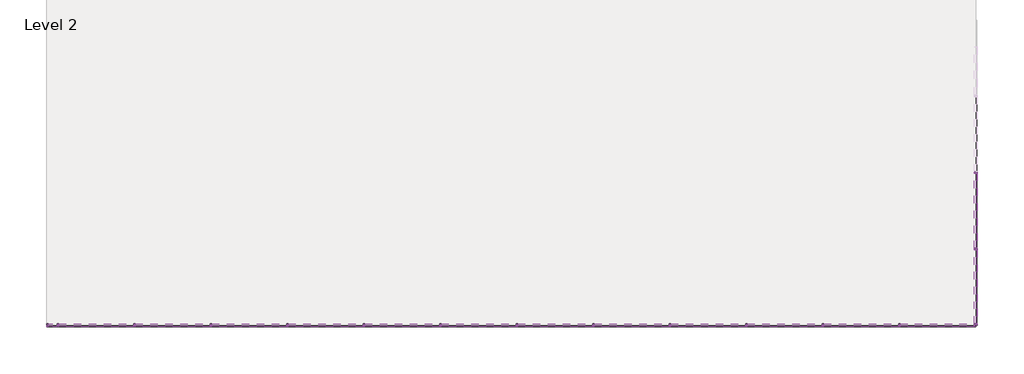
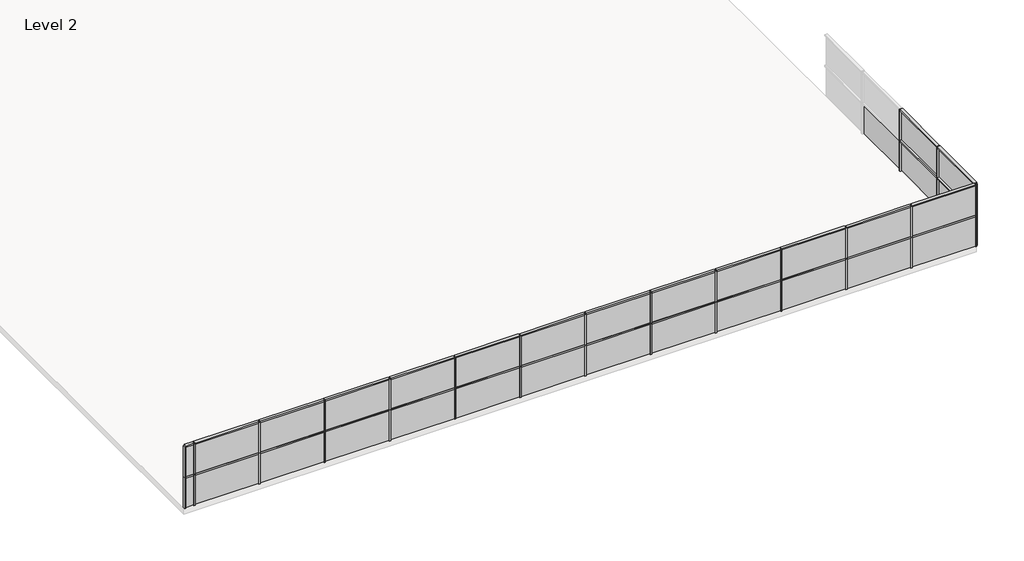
# One storey, part 1 of 2: 64 members, 31 plates.
"""IFC4 building model written with IfcOpenShell, lengths in millimetres."""

import ifcopenshell
import ifcopenshell.guid

model = None  # the IFC model being written
_history = None  # IfcOwnerHistory: only IFC2X3 demands one
_inside = {}  # id of a spatial element -> (the spatial element, [elements in it])
_under = {}  # id of a project, library or spatial element -> (it, [spatial elements below it])
_declared = {}  # id of a project -> (the project, [libraries it declares])
_typed = {}  # id of a type object -> (the type object, [elements of that type])
_made_of = {}  # id of a material, layer set ... -> (it, [elements and type objects made of it])


def new_model(schema):
    """Start an empty IFC model of exactly this schema.

    Asked for "IFC4X3", IfcOpenShell would pick the latest addendum, in which some entities
    have other attributes; the version numbers below select the first issue.
    IFC2X3 requires an IfcOwnerHistory on every rooted entity: one is made here for all.
    """
    global model, _history
    if schema == "IFC4X3":
        model = ifcopenshell.file(schema_version=(4, 3, 0, 0))
    else:
        model = ifcopenshell.file(schema=schema)
    _inside.clear()
    _under.clear()
    _declared.clear()
    _typed.clear()
    _made_of.clear()
    _history = None
    if model.schema == "IFC2X3":
        org = make("IfcOrganization", Name="unknown")
        user = make(
            "IfcPersonAndOrganization",
            ThePerson=make("IfcPerson", FamilyName="unknown"),
            TheOrganization=org,
        )
        app = make(
            "IfcApplication",
            ApplicationDeveloper=org,
            Version="unknown",
            ApplicationFullName="unknown",
            ApplicationIdentifier="unknown",
        )
        _history = make(
            "IfcOwnerHistory",
            OwningUser=user,
            OwningApplication=app,
            ChangeAction="ADDED",
            CreationDate=0,
        )
    return model


def make(cls, **values):
    """One entity of the class cls with the attributes given. An attribute that is None is left unset."""
    return model.create_entity(
        cls, **{name: value for name, value in values.items() if value is not None}
    )


def rooted(cls, **values):
    """An entity with a GlobalId (a new one), such as an element, a storey or a relation."""
    return make(cls, GlobalId=ifcopenshell.guid.new(), OwnerHistory=_history, **values)


def si_unit(unit_type, name, prefix=None):
    """IfcSIUnit, for example si_unit("LENGTHUNIT", "METRE", prefix="MILLI")."""
    return make("IfcSIUnit", UnitType=unit_type, Prefix=prefix, Name=name)


def assignment(units):
    """IfcUnitAssignment: the units of a project."""
    return None if units is None else make("IfcUnitAssignment", Units=units)


def point(xyz):
    """IfcCartesianPoint."""
    return None if xyz is None else make("IfcCartesianPoint", Coordinates=xyz)


def direction(xyz):
    """IfcDirection."""
    return None if xyz is None else make("IfcDirection", DirectionRatios=xyz)


def frame(location, z_axis=None, x_axis=None):
    """IfcAxis2Placement3D, a coordinate frame: its origin and axes. An axis left out is left unset."""
    return make(
        "IfcAxis2Placement3D",
        Location=point(location),
        Axis=direction(z_axis),
        RefDirection=direction(x_axis),
    )


def origin():
    """The frame at (0, 0, 0) with its axes left unset."""
    return frame((0.0, 0.0, 0.0))


def origin_with_axes():
    """The frame at (0, 0, 0) with the z axis (0, 0, 1) and the x axis (1, 0, 0) written out."""
    return frame((0.0, 0.0, 0.0), z_axis=(0.0, 0.0, 1.0), x_axis=(1.0, 0.0, 0.0))


def place(relative_to, where):
    """IfcLocalPlacement: puts the frame where relative to a parent placement (None: the world)."""
    return make(
        "IfcLocalPlacement", PlacementRelTo=relative_to, RelativePlacement=where
    )


def context(
    kind, dimensions, precision=None, world=None, true_north=None, identifier=None
):
    """IfcGeometricRepresentationContext, for example the 3D "Model" context."""
    return make(
        "IfcGeometricRepresentationContext",
        ContextIdentifier=identifier,
        ContextType=kind,
        CoordinateSpaceDimension=dimensions,
        Precision=precision,
        WorldCoordinateSystem=world,
        TrueNorth=true_north,
    )


def project(units=None, contexts=None):
    """IfcProject with its units and contexts."""
    return rooted(
        "IfcProject",
        Name="project",
        RepresentationContexts=contexts,
        UnitsInContext=assignment(units),
    )


def spatial(cls, under=None, at=None, **own):
    """A site, building, storey or space (cls), placed at a placement, below another one or the project."""
    s = rooted(cls, ObjectPlacement=at, **own)
    if under is not None:
        _under.setdefault(under.id(), (under, []))[1].append(s)
    return s


def polyline(points):
    """IfcPolyline through the points."""
    return make("IfcPolyline", Points=[point(p) for p in points])


def outline(outer, holes=None, kind="AREA"):
    """IfcArbitraryClosedProfileDef: a profile drawn as a closed curve; with holes, ...WithVoids."""
    if holes is None:
        return make("IfcArbitraryClosedProfileDef", ProfileType=kind, OuterCurve=outer)
    return make(
        "IfcArbitraryProfileDefWithVoids",
        ProfileType=kind,
        OuterCurve=outer,
        InnerCurves=holes,
    )


def extrude(swept, where, along, depth):
    """IfcExtrudedAreaSolid: the profile swept, set in the frame where, extruded along a direction by depth."""
    return make(
        "IfcExtrudedAreaSolid",
        SweptArea=swept,
        Position=where,
        ExtrudedDirection=direction(along),
        Depth=depth,
    )


def shape(context_of_items, identifier, shape_type, items):
    """IfcShapeRepresentation: the items that make up one representation, for example the "Body"."""
    return make(
        "IfcShapeRepresentation",
        ContextOfItems=context_of_items,
        RepresentationIdentifier=identifier,
        RepresentationType=shape_type,
        Items=items,
    )


def source(mapping_origin, context_of_items, identifier, shape_type, items):
    """IfcRepresentationMap: a shape defined once, which mapped items show again and again."""
    return make(
        "IfcRepresentationMap",
        MappingOrigin=mapping_origin,
        MappedRepresentation=shape(context_of_items, identifier, shape_type, items),
    )


def transform(
    local_origin,
    x_axis=None,
    y_axis=None,
    z_axis=None,
    scale=None,
    scale2=None,
    scale3=None,
    uniform=True,
):
    """IfcCartesianTransformationOperator3D, or its non-uniform kind. x_axis, y_axis, z_axis: its Axis1, 2, 3."""
    if uniform:
        return make(
            "IfcCartesianTransformationOperator3D",
            Axis1=direction(x_axis),
            Axis2=direction(y_axis),
            LocalOrigin=point(local_origin),
            Scale=scale,
            Axis3=direction(z_axis),
        )
    return make(
        "IfcCartesianTransformationOperator3DnonUniform",
        Axis1=direction(x_axis),
        Axis2=direction(y_axis),
        LocalOrigin=point(local_origin),
        Scale=scale,
        Axis3=direction(z_axis),
        Scale2=scale2,
        Scale3=scale3,
    )


def mapped(mapping_source, mapping_target):
    """IfcMappedItem: shows the shape of a source again, moved by a transform."""
    return make(
        "IfcMappedItem", MappingSource=mapping_source, MappingTarget=mapping_target
    )


def made_of(thing, what):
    """Note that an element or type object is made of a material, layer set ...; save() writes the relation."""
    if what is not None:
        _made_of.setdefault(what.id(), (what, []))[1].append(thing)
    return thing


def element(
    cls,
    number,
    at=None,
    inside=None,
    cuts=None,
    type_object=None,
    material=None,
    context=None,
    identifier="Body",
    shape_type=None,
    held_by="IfcProductDefinitionShape",
    body=None,
    shapes=None,
    **own,
):
    """One element of the class cls, such as IfcWall. Its Tag is "e" and its number.

    at: its placement. inside: the storey or other place that contains it. cuts: it is an
    opening in that element (IfcRelVoidsElement). A single representation is given by context,
    identifier, shape_type and body (its items); several are given by shapes. held_by: the class
    of the entity that holds the representations. save() writes the other relations.
    """
    e = rooted(cls, Tag="e%d" % number, ObjectPlacement=at, **own)
    if body is not None:
        shapes = [shape(context, identifier, shape_type, body)]
    if shapes is not None:
        e.Representation = make(held_by, Representations=shapes)
    if inside is not None:
        _inside.setdefault(inside.id(), (inside, []))[1].append(e)
    if cuts is not None:
        rooted(
            "IfcRelVoidsElement", RelatingBuildingElement=cuts, RelatedOpeningElement=e
        )
    if type_object is not None:
        _typed.setdefault(type_object.id(), (type_object, []))[1].append(e)
    return made_of(e, material)


def aggregate(whole, parts):
    """IfcRelAggregates: a whole, such as a stair, and the parts it consists of."""
    return rooted("IfcRelAggregates", RelatingObject=whole, RelatedObjects=parts)


def save(model, path):
    """Write the relations noted so far, then the file.

    IfcRelAggregates (storeys below a building ...), IfcRelContainedInSpatialStructure (elements
    in a storey), IfcRelDefinesByType, IfcRelAssociatesMaterial and IfcRelDeclares: one each for
    every whole, place, type object, material and project.
    """
    for whole, parts in _under.values():
        aggregate(whole, parts)
    for where, things in _inside.values():
        rooted(
            "IfcRelContainedInSpatialStructure",
            RelatedElements=things,
            RelatingStructure=where,
        )
    for kind, things in _typed.values():
        rooted("IfcRelDefinesByType", RelatedObjects=things, RelatingType=kind)
    for what, things in _made_of.values():
        rooted("IfcRelAssociatesMaterial", RelatedObjects=things, RelatingMaterial=what)
    for by, libraries in _declared.values():
        rooted("IfcRelDeclares", RelatingContext=by, RelatedDefinitions=libraries)
    model.write(path)


def member_8cef0660(model_context):
    return source(origin(), model_context, "Body", "SweptSolid", [
        extrude(outline(polyline([(31.75, 63.5), (31.75, -63.5), (-31.75, -63.5), (-31.75, 63.5), (31.75, 63.5)])), frame((0.0, 0.0, -2984.5), z_axis=(0.0, 0.0, 1.0), x_axis=(1.0, 0.0, 0.0)), (0.0, 0.0, 1.0), 2984.5),
    ])


def member_c65d5026(model_context):
    return source(origin(), model_context, "Body", "SweptSolid", [
        extrude(outline(polyline([(31.75, 63.5), (31.75, -63.5), (-31.75, -63.5), (-31.75, 63.5), (31.75, 63.5)])), frame((0.0, 0.0, -2952.75), z_axis=(0.0, 0.0, 1.0), x_axis=(1.0, 0.0, 0.0)), (0.0, 0.0, 1.0), 2952.75),
    ])


def member_82905deb(model_context):
    return source(origin(), model_context, "Body", "SweptSolid", [
        extrude(outline(polyline([(31.75, 63.5), (31.75, -63.5), (-31.75, -63.5), (-31.75, 63.5), (31.75, 63.5)])), frame((0.0, 0.0, -1524.0), z_axis=(0.0, 0.0, 1.0), x_axis=(1.0, 0.0, 0.0)), (0.0, 0.0, 1.0), 1524.0),
    ])


def member_4491d118(model_context):
    return source(origin(), model_context, "Body", "SweptSolid", [
        extrude(outline(polyline([(0.0, 63.5), (0.0, -63.5), (-63.5, -63.5), (-63.5, 63.5), (0.0, 63.5)])), frame((0.0, 0.0, -1524.0), z_axis=(0.0, 0.0, 1.0), x_axis=(1.0, 0.0, 0.0)), (0.0, 0.0, 1.0), 1524.0),
    ])


def member_af2f84b9(model_context):
    return source(origin(), model_context, "Body", "SweptSolid", [
        extrude(outline(polyline([(31.75, 63.5), (31.75, -63.5), (-31.75, -63.5), (-31.75, 63.5), (31.75, 63.5)])), frame((0.0, 0.0, -361.95), z_axis=(0.0, 0.0, 1.0), x_axis=(1.0, 0.0, 0.0)), (0.0, 0.0, 1.0), 361.95),
    ])


def system_panel_glazed_88acb840(model_context):
    return source(origin(), model_context, "Body", "SweptSolid", [
        extrude(outline(polyline([(1476.375, 19.05), (-1476.375, 19.05), (-1476.375, 44.45), (1476.375, 44.45), (1476.375, 19.05)])), origin_with_axes(), (0.0, 0.0, 1.0), 1460.5),
    ])


def system_panel_glazed_2a6c68b7(model_context):
    return source(origin(), model_context, "Body", "SweptSolid", [
        extrude(outline(polyline([(1492.25, 19.05), (-1492.25, 19.05), (-1492.25, 44.45), (1492.25, 44.45), (1492.25, 19.05)])), origin_with_axes(), (0.0, 0.0, 1.0), 1460.5),
    ])


def system_panel_glazed_224948cd(model_context):
    return source(origin(), model_context, "Body", "SweptSolid", [
        extrude(outline(polyline([(180.975, 19.05), (-180.975, 19.05), (-180.975, 44.45), (180.975, 44.45), (180.975, 19.05)])), origin_with_axes(), (0.0, 0.0, 1.0), 1460.5),
    ])


model = new_model("IFC4")

# Units and contexts
model_context = context("Model", 3, world=origin())
ifc_project = project(units=[si_unit("LENGTHUNIT", "METRE", prefix="MILLI")], contexts=[model_context])

# Site, building, storey
site = spatial("IfcSite", under=ifc_project)
building = spatial("IfcBuilding", under=site)
storey = spatial("IfcBuildingStorey", under=building, Name="Level 2", Elevation=3048.0)

# Members
placement = place(None, origin())
member_shape = member_8cef0660(model_context)
element("IfcMember", 1, ObjectType="Rectangular Mullion : 2.5\" x 5\" rectangular", at=placement, inside=storey, context=model_context, shape_type="MappedRepresentation", body=[
    mapped(member_shape, transform((-7003.8511466, -36697.3111797, 6096.0), x_axis=(0.0, 0.0, 1.0), y_axis=(1.0, 0.0, 0.0), z_axis=(0.0, 1.0, 0.0))),
])
element("IfcMember", 2, ObjectType="Rectangular Mullion : 2.5\" x 5\" rectangular", at=placement, inside=storey, context=model_context, shape_type="MappedRepresentation", body=[
    mapped(member_shape, transform((-7003.8511466, -36697.3111797, 4572.0), x_axis=(0.0, 0.0, 1.0), y_axis=(1.0, 0.0, 0.0), z_axis=(0.0, 1.0, 0.0))),
])
element("IfcMember", 3, ObjectType="Rectangular Mullion : 2.5\" x 5\" rectangular", at=placement, inside=storey, context=model_context, shape_type="MappedRepresentation", body=[
    mapped(member_shape, transform((-13131.6011466, -42761.5611797, 4572.0), x_axis=(0.0, 0.0, 1.0), y_axis=(0.0, -1.0, 0.0), z_axis=(1.0, 0.0, 0.0))),
])
element("IfcMember", 4, ObjectType="Rectangular Mullion : 2.5\" x 5\" rectangular", at=placement, inside=storey, context=model_context, shape_type="MappedRepresentation", body=[
    mapped(member_shape, transform((-10083.6011466, -42761.5611797, 4572.0), x_axis=(0.0, 0.0, 1.0), y_axis=(0.0, -1.0, 0.0), z_axis=(1.0, 0.0, 0.0))),
])
element("IfcMember", 5, ObjectType="Rectangular Mullion : 2.5\" x 5\" rectangular", at=placement, inside=storey, context=model_context, shape_type="MappedRepresentation", body=[
    mapped(member_shape, transform((-25323.6011466, -42761.5611797, 4572.0), x_axis=(0.0, 0.0, 1.0), y_axis=(0.0, -1.0, 0.0), z_axis=(1.0, 0.0, 0.0))),
])
element("IfcMember", 6, ObjectType="Rectangular Mullion : 2.5\" x 5\" rectangular", at=placement, inside=storey, context=model_context, shape_type="MappedRepresentation", body=[
    mapped(member_shape, transform((-22275.6011466, -42761.5611797, 4572.0), x_axis=(0.0, 0.0, 1.0), y_axis=(0.0, -1.0, 0.0), z_axis=(1.0, 0.0, 0.0))),
])
element("IfcMember", 7, ObjectType="Rectangular Mullion : 2.5\" x 5\" rectangular", at=placement, inside=storey, context=model_context, shape_type="MappedRepresentation", body=[
    mapped(member_shape, transform((-19227.6011466, -42761.5611797, 4572.0), x_axis=(0.0, 0.0, 1.0), y_axis=(0.0, -1.0, 0.0), z_axis=(1.0, 0.0, 0.0))),
])
element("IfcMember", 8, ObjectType="Rectangular Mullion : 2.5\" x 5\" rectangular", at=placement, inside=storey, context=model_context, shape_type="MappedRepresentation", body=[
    mapped(member_shape, transform((-16179.6011466, -42761.5611797, 4572.0), x_axis=(0.0, 0.0, 1.0), y_axis=(0.0, -1.0, 0.0), z_axis=(1.0, 0.0, 0.0))),
])
element("IfcMember", 9, ObjectType="Rectangular Mullion : 2.5\" x 5\" rectangular", at=placement, inside=storey, context=model_context, shape_type="MappedRepresentation", body=[
    mapped(member_shape, transform((-40563.6011466, -42761.5611797, 6096.0), x_axis=(0.0, 0.0, 1.0), y_axis=(0.0, -1.0, 0.0), z_axis=(1.0, 0.0, 0.0))),
])
element("IfcMember", 10, ObjectType="Rectangular Mullion : 2.5\" x 5\" rectangular", at=placement, inside=storey, context=model_context, shape_type="MappedRepresentation", body=[
    mapped(member_shape, transform((-37515.6011466, -42761.5611797, 6096.0), x_axis=(0.0, 0.0, 1.0), y_axis=(0.0, -1.0, 0.0), z_axis=(1.0, 0.0, 0.0))),
])
element("IfcMember", 11, ObjectType="Rectangular Mullion : 2.5\" x 5\" rectangular", at=placement, inside=storey, context=model_context, shape_type="MappedRepresentation", body=[
    mapped(member_shape, transform((-34467.6011466, -42761.5611797, 6096.0), x_axis=(0.0, 0.0, 1.0), y_axis=(0.0, -1.0, 0.0), z_axis=(1.0, 0.0, 0.0))),
])
element("IfcMember", 12, ObjectType="Rectangular Mullion : 2.5\" x 5\" rectangular", at=placement, inside=storey, context=model_context, shape_type="MappedRepresentation", body=[
    mapped(member_shape, transform((-31419.6011466, -42761.5611797, 6096.0), x_axis=(0.0, 0.0, 1.0), y_axis=(0.0, -1.0, 0.0), z_axis=(1.0, 0.0, 0.0))),
])
element("IfcMember", 13, ObjectType="Rectangular Mullion : 2.5\" x 5\" rectangular", at=placement, inside=storey, context=model_context, shape_type="MappedRepresentation", body=[
    mapped(member_shape, transform((-28371.6011466, -42761.5611797, 6096.0), x_axis=(0.0, 0.0, 1.0), y_axis=(0.0, -1.0, 0.0), z_axis=(1.0, 0.0, 0.0))),
])
element("IfcMember", 14, ObjectType="Rectangular Mullion : 2.5\" x 5\" rectangular", at=placement, inside=storey, context=model_context, shape_type="MappedRepresentation", body=[
    mapped(member_shape, transform((-25323.6011466, -42761.5611797, 6096.0), x_axis=(0.0, 0.0, 1.0), y_axis=(0.0, -1.0, 0.0), z_axis=(1.0, 0.0, 0.0))),
])
element("IfcMember", 15, ObjectType="Rectangular Mullion : 2.5\" x 5\" rectangular", at=placement, inside=storey, context=model_context, shape_type="MappedRepresentation", body=[
    mapped(member_shape, transform((-22275.6011466, -42761.5611797, 6096.0), x_axis=(0.0, 0.0, 1.0), y_axis=(0.0, -1.0, 0.0), z_axis=(1.0, 0.0, 0.0))),
])
element("IfcMember", 16, ObjectType="Rectangular Mullion : 2.5\" x 5\" rectangular", at=placement, inside=storey, context=model_context, shape_type="MappedRepresentation", body=[
    mapped(member_shape, transform((-19227.6011466, -42761.5611797, 6096.0), x_axis=(0.0, 0.0, 1.0), y_axis=(0.0, -1.0, 0.0), z_axis=(1.0, 0.0, 0.0))),
])
element("IfcMember", 17, ObjectType="Rectangular Mullion : 2.5\" x 5\" rectangular", at=placement, inside=storey, context=model_context, shape_type="MappedRepresentation", body=[
    mapped(member_shape, transform((-16179.6011466, -42761.5611797, 6096.0), x_axis=(0.0, 0.0, 1.0), y_axis=(0.0, -1.0, 0.0), z_axis=(1.0, 0.0, 0.0))),
])
element("IfcMember", 18, ObjectType="Rectangular Mullion : 2.5\" x 5\" rectangular", at=placement, inside=storey, context=model_context, shape_type="MappedRepresentation", body=[
    mapped(member_shape, transform((-13131.6011466, -42761.5611797, 6096.0), x_axis=(0.0, 0.0, 1.0), y_axis=(0.0, -1.0, 0.0), z_axis=(1.0, 0.0, 0.0))),
])
element("IfcMember", 19, ObjectType="Rectangular Mullion : 2.5\" x 5\" rectangular", at=placement, inside=storey, context=model_context, shape_type="MappedRepresentation", body=[
    mapped(member_shape, transform((-10083.6011466, -42761.5611797, 6096.0), x_axis=(0.0, 0.0, 1.0), y_axis=(0.0, -1.0, 0.0), z_axis=(1.0, 0.0, 0.0))),
])
element("IfcMember", 20, ObjectType="Rectangular Mullion : 2.5\" x 5\" rectangular", at=placement, inside=storey, context=model_context, shape_type="MappedRepresentation", body=[
    mapped(member_shape, transform((-40563.6011466, -42761.5611797, 4572.0), x_axis=(0.0, 0.0, 1.0), y_axis=(0.0, -1.0, 0.0), z_axis=(1.0, 0.0, 0.0))),
])
element("IfcMember", 21, ObjectType="Rectangular Mullion : 2.5\" x 5\" rectangular", at=placement, inside=storey, context=model_context, shape_type="MappedRepresentation", body=[
    mapped(member_shape, transform((-37515.6011466, -42761.5611797, 4572.0), x_axis=(0.0, 0.0, 1.0), y_axis=(0.0, -1.0, 0.0), z_axis=(1.0, 0.0, 0.0))),
])
element("IfcMember", 22, ObjectType="Rectangular Mullion : 2.5\" x 5\" rectangular", at=placement, inside=storey, context=model_context, shape_type="MappedRepresentation", body=[
    mapped(member_shape, transform((-34467.6011466, -42761.5611797, 4572.0), x_axis=(0.0, 0.0, 1.0), y_axis=(0.0, -1.0, 0.0), z_axis=(1.0, 0.0, 0.0))),
])
element("IfcMember", 23, ObjectType="Rectangular Mullion : 2.5\" x 5\" rectangular", at=placement, inside=storey, context=model_context, shape_type="MappedRepresentation", body=[
    mapped(member_shape, transform((-31419.6011466, -42761.5611797, 4572.0), x_axis=(0.0, 0.0, 1.0), y_axis=(0.0, -1.0, 0.0), z_axis=(1.0, 0.0, 0.0))),
])
element("IfcMember", 24, ObjectType="Rectangular Mullion : 2.5\" x 5\" rectangular", at=placement, inside=storey, context=model_context, shape_type="MappedRepresentation", body=[
    mapped(member_shape, transform((-28371.6011466, -42761.5611797, 4572.0), x_axis=(0.0, 0.0, 1.0), y_axis=(0.0, -1.0, 0.0), z_axis=(1.0, 0.0, 0.0))),
])
member_2_shape = member_c65d5026(model_context)
element("IfcMember", 25, ObjectType="Rectangular Mullion : 2.5\" x 5\" rectangular", at=placement, inside=storey, context=model_context, shape_type="MappedRepresentation", body=[
    mapped(member_2_shape, transform((-7003.8511466, -39745.3111797, 6096.0), x_axis=(0.0, 0.0, 1.0), y_axis=(1.0, 0.0, 0.0), z_axis=(0.0, 1.0, 0.0))),
])
element("IfcMember", 26, ObjectType="Rectangular Mullion : 2.5\" x 5\" rectangular", at=placement, inside=storey, context=model_context, shape_type="MappedRepresentation", body=[
    mapped(member_2_shape, transform((-7003.8511466, -39745.3111797, 4572.0), x_axis=(0.0, 0.0, 1.0), y_axis=(1.0, 0.0, 0.0), z_axis=(0.0, 1.0, 0.0))),
])
element("IfcMember", 27, ObjectType="Rectangular Mullion : 2.5\" x 5\" rectangular", at=placement, inside=storey, context=model_context, shape_type="MappedRepresentation", body=[
    mapped(member_2_shape, transform((-7067.3511466, -42761.5611797, 4572.0), x_axis=(0.0, 0.0, 1.0), y_axis=(0.0, -1.0, 0.0), z_axis=(1.0, 0.0, 0.0))),
])
element("IfcMember", 28, ObjectType="Rectangular Mullion : 2.5\" x 5\" rectangular", at=placement, inside=storey, context=model_context, shape_type="MappedRepresentation", body=[
    mapped(member_2_shape, transform((-7067.3511466, -42761.5611797, 6096.0), x_axis=(0.0, 0.0, 1.0), y_axis=(0.0, -1.0, 0.0), z_axis=(1.0, 0.0, 0.0))),
])
member_3_shape = member_82905deb(model_context)
element("IfcMember", 29, ObjectType="Rectangular Mullion : 2.5\" x 5\" rectangular", at=placement, inside=storey, context=model_context, shape_type="MappedRepresentation", body=[
    mapped(member_3_shape, transform((-7003.8511466, -39713.5611797, 6096.0), x_axis=(0.0, -1.0, 0.0), y_axis=(1.0, 0.0, 0.0), z_axis=(0.0, 0.0, 1.0))),
])
element("IfcMember", 30, ObjectType="Rectangular Mullion : 2.5\" x 5\" rectangular", at=placement, inside=storey, context=model_context, shape_type="MappedRepresentation", body=[
    mapped(member_3_shape, transform((-7003.8511466, -39713.5611797, 4572.0), x_axis=(0.0, -1.0, 0.0), y_axis=(1.0, 0.0, 0.0), z_axis=(0.0, 0.0, 1.0))),
])
element("IfcMember", 31, ObjectType="Rectangular Mullion : 2.5\" x 5\" rectangular", at=placement, inside=storey, context=model_context, shape_type="MappedRepresentation", body=[
    mapped(member_3_shape, transform((-7003.8511466, -36665.5611797, 6096.0), x_axis=(0.0, -1.0, 0.0), y_axis=(1.0, 0.0, 0.0), z_axis=(0.0, 0.0, 1.0))),
])
element("IfcMember", 32, ObjectType="Rectangular Mullion : 2.5\" x 5\" rectangular", at=placement, inside=storey, context=model_context, shape_type="MappedRepresentation", body=[
    mapped(member_3_shape, transform((-7003.8511466, -36665.5611797, 4572.0), x_axis=(0.0, -1.0, 0.0), y_axis=(1.0, 0.0, 0.0), z_axis=(0.0, 0.0, 1.0))),
])
element("IfcMember", 33, ObjectType="Rectangular Mullion : 2.5\" x 5\" rectangular", at=placement, inside=storey, context=model_context, shape_type="MappedRepresentation", body=[
    mapped(member_3_shape, transform((-10051.8511466, -42761.5611797, 6096.0), x_axis=(-1.0, 0.0, 0.0), y_axis=(0.0, -1.0, 0.0), z_axis=(0.0, 0.0, 1.0))),
])
element("IfcMember", 34, ObjectType="Rectangular Mullion : 2.5\" x 5\" rectangular", at=placement, inside=storey, context=model_context, shape_type="MappedRepresentation", body=[
    mapped(member_3_shape, transform((-10051.8511466, -42761.5611797, 4572.0), x_axis=(-1.0, 0.0, 0.0), y_axis=(0.0, -1.0, 0.0), z_axis=(0.0, 0.0, 1.0))),
])
element("IfcMember", 35, ObjectType="Rectangular Mullion : 2.5\" x 5\" rectangular", at=placement, inside=storey, context=model_context, shape_type="MappedRepresentation", body=[
    mapped(member_3_shape, transform((-31387.8511466, -42761.5611797, 6096.0), x_axis=(-1.0, 0.0, 0.0), y_axis=(0.0, -1.0, 0.0), z_axis=(0.0, 0.0, 1.0))),
])
element("IfcMember", 36, ObjectType="Rectangular Mullion : 2.5\" x 5\" rectangular", at=placement, inside=storey, context=model_context, shape_type="MappedRepresentation", body=[
    mapped(member_3_shape, transform((-31387.8511466, -42761.5611797, 4572.0), x_axis=(-1.0, 0.0, 0.0), y_axis=(0.0, -1.0, 0.0), z_axis=(0.0, 0.0, 1.0))),
])
element("IfcMember", 37, ObjectType="Rectangular Mullion : 2.5\" x 5\" rectangular", at=placement, inside=storey, context=model_context, shape_type="MappedRepresentation", body=[
    mapped(member_3_shape, transform((-28339.8511466, -42761.5611797, 6096.0), x_axis=(-1.0, 0.0, 0.0), y_axis=(0.0, -1.0, 0.0), z_axis=(0.0, 0.0, 1.0))),
])
element("IfcMember", 38, ObjectType="Rectangular Mullion : 2.5\" x 5\" rectangular", at=placement, inside=storey, context=model_context, shape_type="MappedRepresentation", body=[
    mapped(member_3_shape, transform((-28339.8511466, -42761.5611797, 4572.0), x_axis=(-1.0, 0.0, 0.0), y_axis=(0.0, -1.0, 0.0), z_axis=(0.0, 0.0, 1.0))),
])
element("IfcMember", 39, ObjectType="Rectangular Mullion : 2.5\" x 5\" rectangular", at=placement, inside=storey, context=model_context, shape_type="MappedRepresentation", body=[
    mapped(member_3_shape, transform((-25291.8511466, -42761.5611797, 6096.0), x_axis=(-1.0, 0.0, 0.0), y_axis=(0.0, -1.0, 0.0), z_axis=(0.0, 0.0, 1.0))),
])
element("IfcMember", 40, ObjectType="Rectangular Mullion : 2.5\" x 5\" rectangular", at=placement, inside=storey, context=model_context, shape_type="MappedRepresentation", body=[
    mapped(member_3_shape, transform((-25291.8511466, -42761.5611797, 4572.0), x_axis=(-1.0, 0.0, 0.0), y_axis=(0.0, -1.0, 0.0), z_axis=(0.0, 0.0, 1.0))),
])
element("IfcMember", 41, ObjectType="Rectangular Mullion : 2.5\" x 5\" rectangular", at=placement, inside=storey, context=model_context, shape_type="MappedRepresentation", body=[
    mapped(member_3_shape, transform((-22243.8511466, -42761.5611797, 6096.0), x_axis=(-1.0, 0.0, 0.0), y_axis=(0.0, -1.0, 0.0), z_axis=(0.0, 0.0, 1.0))),
])
element("IfcMember", 42, ObjectType="Rectangular Mullion : 2.5\" x 5\" rectangular", at=placement, inside=storey, context=model_context, shape_type="MappedRepresentation", body=[
    mapped(member_3_shape, transform((-22243.8511466, -42761.5611797, 4572.0), x_axis=(-1.0, 0.0, 0.0), y_axis=(0.0, -1.0, 0.0), z_axis=(0.0, 0.0, 1.0))),
])
element("IfcMember", 43, ObjectType="Rectangular Mullion : 2.5\" x 5\" rectangular", at=placement, inside=storey, context=model_context, shape_type="MappedRepresentation", body=[
    mapped(member_3_shape, transform((-19195.8511466, -42761.5611797, 6096.0), x_axis=(-1.0, 0.0, 0.0), y_axis=(0.0, -1.0, 0.0), z_axis=(0.0, 0.0, 1.0))),
])
element("IfcMember", 44, ObjectType="Rectangular Mullion : 2.5\" x 5\" rectangular", at=placement, inside=storey, context=model_context, shape_type="MappedRepresentation", body=[
    mapped(member_3_shape, transform((-19195.8511466, -42761.5611797, 4572.0), x_axis=(-1.0, 0.0, 0.0), y_axis=(0.0, -1.0, 0.0), z_axis=(0.0, 0.0, 1.0))),
])
element("IfcMember", 45, ObjectType="Rectangular Mullion : 2.5\" x 5\" rectangular", at=placement, inside=storey, context=model_context, shape_type="MappedRepresentation", body=[
    mapped(member_3_shape, transform((-16147.8511466, -42761.5611797, 6096.0), x_axis=(-1.0, 0.0, 0.0), y_axis=(0.0, -1.0, 0.0), z_axis=(0.0, 0.0, 1.0))),
])
element("IfcMember", 46, ObjectType="Rectangular Mullion : 2.5\" x 5\" rectangular", at=placement, inside=storey, context=model_context, shape_type="MappedRepresentation", body=[
    mapped(member_3_shape, transform((-16147.8511466, -42761.5611797, 4572.0), x_axis=(-1.0, 0.0, 0.0), y_axis=(0.0, -1.0, 0.0), z_axis=(0.0, 0.0, 1.0))),
])
element("IfcMember", 47, ObjectType="Rectangular Mullion : 2.5\" x 5\" rectangular", at=placement, inside=storey, context=model_context, shape_type="MappedRepresentation", body=[
    mapped(member_3_shape, transform((-13099.8511466, -42761.5611797, 6096.0), x_axis=(-1.0, 0.0, 0.0), y_axis=(0.0, -1.0, 0.0), z_axis=(0.0, 0.0, 1.0))),
])
element("IfcMember", 48, ObjectType="Rectangular Mullion : 2.5\" x 5\" rectangular", at=placement, inside=storey, context=model_context, shape_type="MappedRepresentation", body=[
    mapped(member_3_shape, transform((-13099.8511466, -42761.5611797, 4572.0), x_axis=(-1.0, 0.0, 0.0), y_axis=(0.0, -1.0, 0.0), z_axis=(0.0, 0.0, 1.0))),
])
element("IfcMember", 49, ObjectType="Rectangular Mullion : 2.5\" x 5\" rectangular", at=placement, inside=storey, context=model_context, shape_type="MappedRepresentation", body=[
    mapped(member_3_shape, transform((-43579.8511466, -42761.5611797, 6096.0), x_axis=(-1.0, 0.0, 0.0), y_axis=(0.0, -1.0, 0.0), z_axis=(0.0, 0.0, 1.0))),
])
element("IfcMember", 50, ObjectType="Rectangular Mullion : 2.5\" x 5\" rectangular", at=placement, inside=storey, context=model_context, shape_type="MappedRepresentation", body=[
    mapped(member_3_shape, transform((-43579.8511466, -42761.5611797, 4572.0), x_axis=(-1.0, 0.0, 0.0), y_axis=(0.0, -1.0, 0.0), z_axis=(0.0, 0.0, 1.0))),
])
element("IfcMember", 51, ObjectType="Rectangular Mullion : 2.5\" x 5\" rectangular", at=placement, inside=storey, context=model_context, shape_type="MappedRepresentation", body=[
    mapped(member_3_shape, transform((-40531.8511466, -42761.5611797, 6096.0), x_axis=(-1.0, 0.0, 0.0), y_axis=(0.0, -1.0, 0.0), z_axis=(0.0, 0.0, 1.0))),
])
element("IfcMember", 52, ObjectType="Rectangular Mullion : 2.5\" x 5\" rectangular", at=placement, inside=storey, context=model_context, shape_type="MappedRepresentation", body=[
    mapped(member_3_shape, transform((-40531.8511466, -42761.5611797, 4572.0), x_axis=(-1.0, 0.0, 0.0), y_axis=(0.0, -1.0, 0.0), z_axis=(0.0, 0.0, 1.0))),
])
element("IfcMember", 53, ObjectType="Rectangular Mullion : 2.5\" x 5\" rectangular", at=placement, inside=storey, context=model_context, shape_type="MappedRepresentation", body=[
    mapped(member_3_shape, transform((-37483.8511466, -42761.5611797, 6096.0), x_axis=(-1.0, 0.0, 0.0), y_axis=(0.0, -1.0, 0.0), z_axis=(0.0, 0.0, 1.0))),
])
element("IfcMember", 54, ObjectType="Rectangular Mullion : 2.5\" x 5\" rectangular", at=placement, inside=storey, context=model_context, shape_type="MappedRepresentation", body=[
    mapped(member_3_shape, transform((-37483.8511466, -42761.5611797, 4572.0), x_axis=(-1.0, 0.0, 0.0), y_axis=(0.0, -1.0, 0.0), z_axis=(0.0, 0.0, 1.0))),
])
element("IfcMember", 55, ObjectType="Rectangular Mullion : 2.5\" x 5\" rectangular", at=placement, inside=storey, context=model_context, shape_type="MappedRepresentation", body=[
    mapped(member_3_shape, transform((-34435.8511466, -42761.5611797, 6096.0), x_axis=(-1.0, 0.0, 0.0), y_axis=(0.0, -1.0, 0.0), z_axis=(0.0, 0.0, 1.0))),
])
element("IfcMember", 56, ObjectType="Rectangular Mullion : 2.5\" x 5\" rectangular", at=placement, inside=storey, context=model_context, shape_type="MappedRepresentation", body=[
    mapped(member_3_shape, transform((-34435.8511466, -42761.5611797, 4572.0), x_axis=(-1.0, 0.0, 0.0), y_axis=(0.0, -1.0, 0.0), z_axis=(0.0, 0.0, 1.0))),
])
member_4_shape = member_4491d118(model_context)
element("IfcMember", 57, ObjectType="Rectangular Mullion : 2.5\" x 5\" rectangular", at=placement, inside=storey, context=model_context, shape_type="MappedRepresentation", body=[
    mapped(member_4_shape, transform((-7003.8511466, -42761.5611797, 4572.0), x_axis=(1.0, 0.0, 0.0), y_axis=(0.0, -1.0, 0.0), z_axis=(0.0, 0.0, -1.0))),
])
element("IfcMember", 58, ObjectType="Rectangular Mullion : 2.5\" x 5\" rectangular", at=placement, inside=storey, context=model_context, shape_type="MappedRepresentation", body=[
    mapped(member_4_shape, transform((-7003.8511466, -42761.5611797, 3048.0), x_axis=(1.0, 0.0, 0.0), y_axis=(0.0, -1.0, 0.0), z_axis=(0.0, 0.0, -1.0))),
])
element("IfcMember", 59, ObjectType="Rectangular Mullion : 2.5\" x 5\" rectangular", at=placement, inside=storey, context=model_context, shape_type="MappedRepresentation", body=[
    mapped(member_4_shape, transform((-7003.8511466, -42761.5611797, 6096.0), x_axis=(0.0, -1.0, 0.0), y_axis=(1.0, 0.0, 0.0), z_axis=(0.0, 0.0, 1.0))),
])
element("IfcMember", 60, ObjectType="Rectangular Mullion : 2.5\" x 5\" rectangular", at=placement, inside=storey, context=model_context, shape_type="MappedRepresentation", body=[
    mapped(member_4_shape, transform((-7003.8511466, -42761.5611797, 4572.0), x_axis=(0.0, -1.0, 0.0), y_axis=(1.0, 0.0, 0.0), z_axis=(0.0, 0.0, 1.0))),
])
element("IfcMember", 61, ObjectType="Rectangular Mullion : 2.5\" x 5\" rectangular", at=placement, inside=storey, context=model_context, shape_type="MappedRepresentation", body=[
    mapped(member_4_shape, transform((-44037.0511466, -42761.5611797, 6096.0), x_axis=(-1.0, 0.0, 0.0), y_axis=(0.0, -1.0, 0.0), z_axis=(0.0, 0.0, 1.0))),
])
element("IfcMember", 62, ObjectType="Rectangular Mullion : 2.5\" x 5\" rectangular", at=placement, inside=storey, context=model_context, shape_type="MappedRepresentation", body=[
    mapped(member_4_shape, transform((-44037.0511466, -42761.5611797, 4572.0), x_axis=(-1.0, 0.0, 0.0), y_axis=(0.0, -1.0, 0.0), z_axis=(0.0, 0.0, 1.0))),
])
member_5_shape = member_af2f84b9(model_context)
element("IfcMember", 63, ObjectType="Rectangular Mullion : 2.5\" x 5\" rectangular", at=placement, inside=storey, context=model_context, shape_type="MappedRepresentation", body=[
    mapped(member_5_shape, transform((-43611.6011466, -42761.5611797, 6096.0), x_axis=(0.0, 0.0, 1.0), y_axis=(0.0, -1.0, 0.0), z_axis=(1.0, 0.0, 0.0))),
])
element("IfcMember", 64, ObjectType="Rectangular Mullion : 2.5\" x 5\" rectangular", at=placement, inside=storey, context=model_context, shape_type="MappedRepresentation", body=[
    mapped(member_5_shape, transform((-43611.6011466, -42761.5611797, 4572.0), x_axis=(0.0, 0.0, 1.0), y_axis=(0.0, -1.0, 0.0), z_axis=(1.0, 0.0, 0.0))),
])

# Plates
system_panel_glazed_shape = system_panel_glazed_88acb840(model_context)
element("IfcPlate", 65, ObjectType="System Panel : Glazed", at=placement, inside=storey, context=model_context, shape_type="MappedRepresentation", body=[
    mapped(system_panel_glazed_shape, transform((-7003.8511466, -41221.6861797, 3079.75), x_axis=(0.0, -1.0, 0.0), y_axis=(1.0, 0.0, 0.0), z_axis=(0.0, 0.0, 1.0))),
])
element("IfcPlate", 66, ObjectType="System Panel : Glazed", at=placement, inside=storey, context=model_context, shape_type="MappedRepresentation", body=[
    mapped(system_panel_glazed_shape, transform((-7003.8511466, -41221.6861797, 4603.75), x_axis=(0.0, -1.0, 0.0), y_axis=(1.0, 0.0, 0.0), z_axis=(0.0, 0.0, 1.0))),
])
element("IfcPlate", 67, ObjectType="System Panel : Glazed", at=placement, inside=storey, context=model_context, shape_type="MappedRepresentation", body=[
    mapped(system_panel_glazed_shape, transform((-8543.7261466, -42761.5611797, 3079.75), x_axis=(-1.0, 0.0, 0.0), y_axis=(0.0, -1.0, 0.0), z_axis=(0.0, 0.0, 1.0))),
])
element("IfcPlate", 68, ObjectType="System Panel : Glazed", at=placement, inside=storey, context=model_context, shape_type="MappedRepresentation", body=[
    mapped(system_panel_glazed_shape, transform((-8543.7261466, -42761.5611797, 4603.75), x_axis=(-1.0, 0.0, 0.0), y_axis=(0.0, -1.0, 0.0), z_axis=(0.0, 0.0, 1.0))),
])
system_panel_glazed_2_shape = system_panel_glazed_2a6c68b7(model_context)
element("IfcPlate", 69, ObjectType="System Panel : Glazed", at=placement, inside=storey, context=model_context, shape_type="MappedRepresentation", body=[
    mapped(system_panel_glazed_2_shape, transform((-7003.8511466, -35141.5611797, 3079.75), x_axis=(0.0, -1.0, 0.0), y_axis=(1.0, 0.0, 0.0), z_axis=(0.0, 0.0, 1.0))),
])
element("IfcPlate", 70, ObjectType="System Panel : Glazed", at=placement, inside=storey, context=model_context, shape_type="MappedRepresentation", body=[
    mapped(system_panel_glazed_2_shape, transform((-7003.8511466, -38189.5611797, 3079.75), x_axis=(0.0, -1.0, 0.0), y_axis=(1.0, 0.0, 0.0), z_axis=(0.0, 0.0, 1.0))),
])
element("IfcPlate", 71, ObjectType="System Panel : Glazed", at=placement, inside=storey, context=model_context, shape_type="MappedRepresentation", body=[
    mapped(system_panel_glazed_2_shape, transform((-7003.8511466, -38189.5611797, 4603.75), x_axis=(0.0, -1.0, 0.0), y_axis=(1.0, 0.0, 0.0), z_axis=(0.0, 0.0, 1.0))),
])
element("IfcPlate", 72, ObjectType="System Panel : Glazed", at=placement, inside=storey, context=model_context, shape_type="MappedRepresentation", body=[
    mapped(system_panel_glazed_2_shape, transform((-11575.8511466, -42761.5611797, 3079.75), x_axis=(-1.0, 0.0, 0.0), y_axis=(0.0, -1.0, 0.0), z_axis=(0.0, 0.0, 1.0))),
])
element("IfcPlate", 73, ObjectType="System Panel : Glazed", at=placement, inside=storey, context=model_context, shape_type="MappedRepresentation", body=[
    mapped(system_panel_glazed_2_shape, transform((-14623.8511466, -42761.5611797, 3079.75), x_axis=(-1.0, 0.0, 0.0), y_axis=(0.0, -1.0, 0.0), z_axis=(0.0, 0.0, 1.0))),
])
element("IfcPlate", 74, ObjectType="System Panel : Glazed", at=placement, inside=storey, context=model_context, shape_type="MappedRepresentation", body=[
    mapped(system_panel_glazed_2_shape, transform((-17671.8511466, -42761.5611797, 3079.75), x_axis=(-1.0, 0.0, 0.0), y_axis=(0.0, -1.0, 0.0), z_axis=(0.0, 0.0, 1.0))),
])
element("IfcPlate", 75, ObjectType="System Panel : Glazed", at=placement, inside=storey, context=model_context, shape_type="MappedRepresentation", body=[
    mapped(system_panel_glazed_2_shape, transform((-20719.8511466, -42761.5611797, 3079.75), x_axis=(-1.0, 0.0, 0.0), y_axis=(0.0, -1.0, 0.0), z_axis=(0.0, 0.0, 1.0))),
])
element("IfcPlate", 76, ObjectType="System Panel : Glazed", at=placement, inside=storey, context=model_context, shape_type="MappedRepresentation", body=[
    mapped(system_panel_glazed_2_shape, transform((-23767.8511466, -42761.5611797, 3079.75), x_axis=(-1.0, 0.0, 0.0), y_axis=(0.0, -1.0, 0.0), z_axis=(0.0, 0.0, 1.0))),
])
element("IfcPlate", 77, ObjectType="System Panel : Glazed", at=placement, inside=storey, context=model_context, shape_type="MappedRepresentation", body=[
    mapped(system_panel_glazed_2_shape, transform((-26815.8511466, -42761.5611797, 3079.75), x_axis=(-1.0, 0.0, 0.0), y_axis=(0.0, -1.0, 0.0), z_axis=(0.0, 0.0, 1.0))),
])
element("IfcPlate", 78, ObjectType="System Panel : Glazed", at=placement, inside=storey, context=model_context, shape_type="MappedRepresentation", body=[
    mapped(system_panel_glazed_2_shape, transform((-29863.8511466, -42761.5611797, 3079.75), x_axis=(-1.0, 0.0, 0.0), y_axis=(0.0, -1.0, 0.0), z_axis=(0.0, 0.0, 1.0))),
])
element("IfcPlate", 79, ObjectType="System Panel : Glazed", at=placement, inside=storey, context=model_context, shape_type="MappedRepresentation", body=[
    mapped(system_panel_glazed_2_shape, transform((-32911.8511466, -42761.5611797, 3079.75), x_axis=(-1.0, 0.0, 0.0), y_axis=(0.0, -1.0, 0.0), z_axis=(0.0, 0.0, 1.0))),
])
element("IfcPlate", 80, ObjectType="System Panel : Glazed", at=placement, inside=storey, context=model_context, shape_type="MappedRepresentation", body=[
    mapped(system_panel_glazed_2_shape, transform((-35959.8511466, -42761.5611797, 3079.75), x_axis=(-1.0, 0.0, 0.0), y_axis=(0.0, -1.0, 0.0), z_axis=(0.0, 0.0, 1.0))),
])
element("IfcPlate", 81, ObjectType="System Panel : Glazed", at=placement, inside=storey, context=model_context, shape_type="MappedRepresentation", body=[
    mapped(system_panel_glazed_2_shape, transform((-39007.8511466, -42761.5611797, 3079.75), x_axis=(-1.0, 0.0, 0.0), y_axis=(0.0, -1.0, 0.0), z_axis=(0.0, 0.0, 1.0))),
])
element("IfcPlate", 82, ObjectType="System Panel : Glazed", at=placement, inside=storey, context=model_context, shape_type="MappedRepresentation", body=[
    mapped(system_panel_glazed_2_shape, transform((-42055.8511466, -42761.5611797, 3079.75), x_axis=(-1.0, 0.0, 0.0), y_axis=(0.0, -1.0, 0.0), z_axis=(0.0, 0.0, 1.0))),
])
element("IfcPlate", 83, ObjectType="System Panel : Glazed", at=placement, inside=storey, context=model_context, shape_type="MappedRepresentation", body=[
    mapped(system_panel_glazed_2_shape, transform((-11575.8511466, -42761.5611797, 4603.75), x_axis=(-1.0, 0.0, 0.0), y_axis=(0.0, -1.0, 0.0), z_axis=(0.0, 0.0, 1.0))),
])
element("IfcPlate", 84, ObjectType="System Panel : Glazed", at=placement, inside=storey, context=model_context, shape_type="MappedRepresentation", body=[
    mapped(system_panel_glazed_2_shape, transform((-14623.8511466, -42761.5611797, 4603.75), x_axis=(-1.0, 0.0, 0.0), y_axis=(0.0, -1.0, 0.0), z_axis=(0.0, 0.0, 1.0))),
])
element("IfcPlate", 85, ObjectType="System Panel : Glazed", at=placement, inside=storey, context=model_context, shape_type="MappedRepresentation", body=[
    mapped(system_panel_glazed_2_shape, transform((-17671.8511466, -42761.5611797, 4603.75), x_axis=(-1.0, 0.0, 0.0), y_axis=(0.0, -1.0, 0.0), z_axis=(0.0, 0.0, 1.0))),
])
element("IfcPlate", 86, ObjectType="System Panel : Glazed", at=placement, inside=storey, context=model_context, shape_type="MappedRepresentation", body=[
    mapped(system_panel_glazed_2_shape, transform((-20719.8511466, -42761.5611797, 4603.75), x_axis=(-1.0, 0.0, 0.0), y_axis=(0.0, -1.0, 0.0), z_axis=(0.0, 0.0, 1.0))),
])
element("IfcPlate", 87, ObjectType="System Panel : Glazed", at=placement, inside=storey, context=model_context, shape_type="MappedRepresentation", body=[
    mapped(system_panel_glazed_2_shape, transform((-23767.8511466, -42761.5611797, 4603.75), x_axis=(-1.0, 0.0, 0.0), y_axis=(0.0, -1.0, 0.0), z_axis=(0.0, 0.0, 1.0))),
])
element("IfcPlate", 88, ObjectType="System Panel : Glazed", at=placement, inside=storey, context=model_context, shape_type="MappedRepresentation", body=[
    mapped(system_panel_glazed_2_shape, transform((-26815.8511466, -42761.5611797, 4603.75), x_axis=(-1.0, 0.0, 0.0), y_axis=(0.0, -1.0, 0.0), z_axis=(0.0, 0.0, 1.0))),
])
element("IfcPlate", 89, ObjectType="System Panel : Glazed", at=placement, inside=storey, context=model_context, shape_type="MappedRepresentation", body=[
    mapped(system_panel_glazed_2_shape, transform((-29863.8511466, -42761.5611797, 4603.75), x_axis=(-1.0, 0.0, 0.0), y_axis=(0.0, -1.0, 0.0), z_axis=(0.0, 0.0, 1.0))),
])
element("IfcPlate", 90, ObjectType="System Panel : Glazed", at=placement, inside=storey, context=model_context, shape_type="MappedRepresentation", body=[
    mapped(system_panel_glazed_2_shape, transform((-32911.8511466, -42761.5611797, 4603.75), x_axis=(-1.0, 0.0, 0.0), y_axis=(0.0, -1.0, 0.0), z_axis=(0.0, 0.0, 1.0))),
])
element("IfcPlate", 91, ObjectType="System Panel : Glazed", at=placement, inside=storey, context=model_context, shape_type="MappedRepresentation", body=[
    mapped(system_panel_glazed_2_shape, transform((-35959.8511466, -42761.5611797, 4603.75), x_axis=(-1.0, 0.0, 0.0), y_axis=(0.0, -1.0, 0.0), z_axis=(0.0, 0.0, 1.0))),
])
element("IfcPlate", 92, ObjectType="System Panel : Glazed", at=placement, inside=storey, context=model_context, shape_type="MappedRepresentation", body=[
    mapped(system_panel_glazed_2_shape, transform((-39007.8511466, -42761.5611797, 4603.75), x_axis=(-1.0, 0.0, 0.0), y_axis=(0.0, -1.0, 0.0), z_axis=(0.0, 0.0, 1.0))),
])
element("IfcPlate", 93, ObjectType="System Panel : Glazed", at=placement, inside=storey, context=model_context, shape_type="MappedRepresentation", body=[
    mapped(system_panel_glazed_2_shape, transform((-42055.8511466, -42761.5611797, 4603.75), x_axis=(-1.0, 0.0, 0.0), y_axis=(0.0, -1.0, 0.0), z_axis=(0.0, 0.0, 1.0))),
])
system_panel_glazed_3_shape = system_panel_glazed_224948cd(model_context)
element("IfcPlate", 94, ObjectType="System Panel : Glazed", at=placement, inside=storey, context=model_context, shape_type="MappedRepresentation", body=[
    mapped(system_panel_glazed_3_shape, transform((-43792.5761466, -42761.5611797, 3079.75), x_axis=(-1.0, 0.0, 0.0), y_axis=(0.0, -1.0, 0.0), z_axis=(0.0, 0.0, 1.0))),
])
element("IfcPlate", 95, ObjectType="System Panel : Glazed", at=placement, inside=storey, context=model_context, shape_type="MappedRepresentation", body=[
    mapped(system_panel_glazed_3_shape, transform((-43792.5761466, -42761.5611797, 4603.75), x_axis=(-1.0, 0.0, 0.0), y_axis=(0.0, -1.0, 0.0), z_axis=(0.0, 0.0, 1.0))),
])

save(model, "model.ifc")
